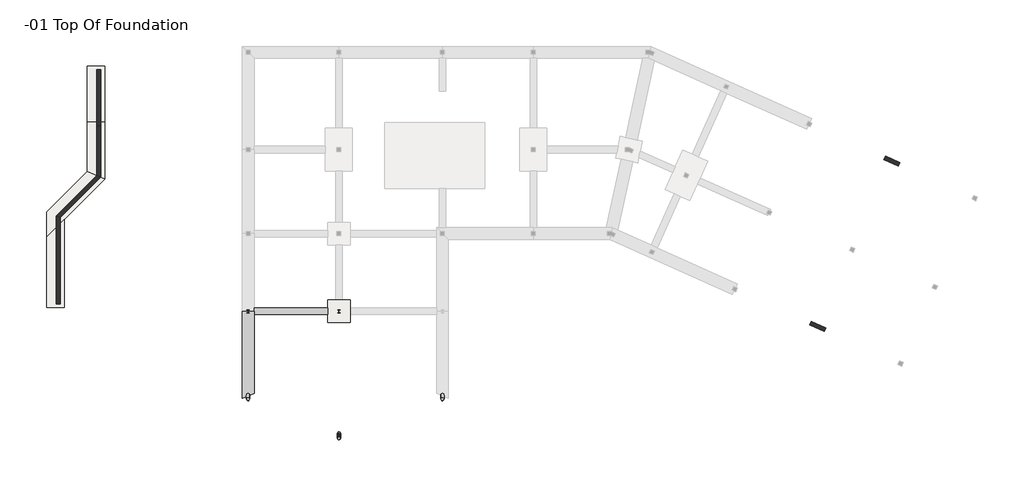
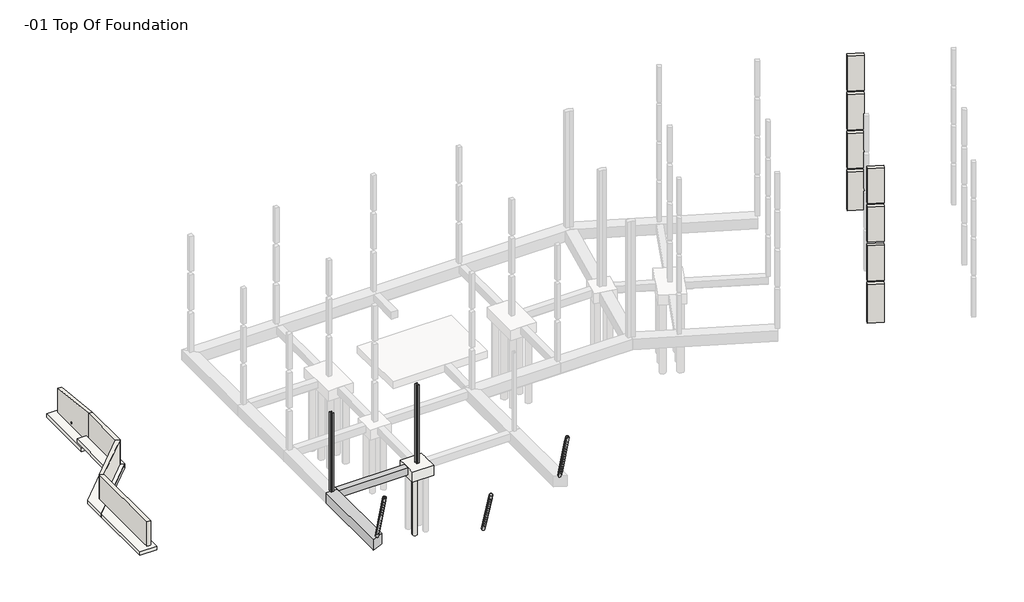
# One storey, part 1 of 4: 6 walls, 5 columns, 4 footings, 2 beams, 2 slabs.
"""IFC4 building model written with IfcOpenShell, lengths in millimetres."""

import ifcopenshell
import ifcopenshell.guid

model = None  # the IFC model being written
_history = None  # IfcOwnerHistory: only IFC2X3 demands one
_inside = {}  # id of a spatial element -> (the spatial element, [elements in it])
_under = {}  # id of a project, library or spatial element -> (it, [spatial elements below it])
_declared = {}  # id of a project -> (the project, [libraries it declares])
_typed = {}  # id of a type object -> (the type object, [elements of that type])
_made_of = {}  # id of a material, layer set ... -> (it, [elements and type objects made of it])


def new_model(schema):
    """Start an empty IFC model of exactly this schema.

    Asked for "IFC4X3", IfcOpenShell would pick the latest addendum, in which some entities
    have other attributes; the version numbers below select the first issue.
    IFC2X3 requires an IfcOwnerHistory on every rooted entity: one is made here for all.
    """
    global model, _history
    if schema == "IFC4X3":
        model = ifcopenshell.file(schema_version=(4, 3, 0, 0))
    else:
        model = ifcopenshell.file(schema=schema)
    _inside.clear()
    _under.clear()
    _declared.clear()
    _typed.clear()
    _made_of.clear()
    _history = None
    if model.schema == "IFC2X3":
        org = make("IfcOrganization", Name="unknown")
        user = make(
            "IfcPersonAndOrganization",
            ThePerson=make("IfcPerson", FamilyName="unknown"),
            TheOrganization=org,
        )
        app = make(
            "IfcApplication",
            ApplicationDeveloper=org,
            Version="unknown",
            ApplicationFullName="unknown",
            ApplicationIdentifier="unknown",
        )
        _history = make(
            "IfcOwnerHistory",
            OwningUser=user,
            OwningApplication=app,
            ChangeAction="ADDED",
            CreationDate=0,
        )
    return model


def make(cls, **values):
    """One entity of the class cls with the attributes given. An attribute that is None is left unset."""
    return model.create_entity(
        cls, **{name: value for name, value in values.items() if value is not None}
    )


def rooted(cls, **values):
    """An entity with a GlobalId (a new one), such as an element, a storey or a relation."""
    return make(cls, GlobalId=ifcopenshell.guid.new(), OwnerHistory=_history, **values)


def si_unit(unit_type, name, prefix=None):
    """IfcSIUnit, for example si_unit("LENGTHUNIT", "METRE", prefix="MILLI")."""
    return make("IfcSIUnit", UnitType=unit_type, Prefix=prefix, Name=name)


def assignment(units):
    """IfcUnitAssignment: the units of a project."""
    return None if units is None else make("IfcUnitAssignment", Units=units)


def point(xyz):
    """IfcCartesianPoint."""
    return None if xyz is None else make("IfcCartesianPoint", Coordinates=xyz)


def direction(xyz):
    """IfcDirection."""
    return None if xyz is None else make("IfcDirection", DirectionRatios=xyz)


def frame(location, z_axis=None, x_axis=None):
    """IfcAxis2Placement3D, a coordinate frame: its origin and axes. An axis left out is left unset."""
    return make(
        "IfcAxis2Placement3D",
        Location=point(location),
        Axis=direction(z_axis),
        RefDirection=direction(x_axis),
    )


def frame_2d(location, x_axis=None):
    """IfcAxis2Placement2D, a coordinate frame in the plane: its origin and x axis."""
    return make(
        "IfcAxis2Placement2D", Location=point(location), RefDirection=direction(x_axis)
    )


def origin():
    """The frame at (0, 0, 0) with its axes left unset."""
    return frame((0.0, 0.0, 0.0))


def place(relative_to, where):
    """IfcLocalPlacement: puts the frame where relative to a parent placement (None: the world)."""
    return make(
        "IfcLocalPlacement", PlacementRelTo=relative_to, RelativePlacement=where
    )


def context(
    kind, dimensions, precision=None, world=None, true_north=None, identifier=None
):
    """IfcGeometricRepresentationContext, for example the 3D "Model" context."""
    return make(
        "IfcGeometricRepresentationContext",
        ContextIdentifier=identifier,
        ContextType=kind,
        CoordinateSpaceDimension=dimensions,
        Precision=precision,
        WorldCoordinateSystem=world,
        TrueNorth=true_north,
    )


def project(units=None, contexts=None):
    """IfcProject with its units and contexts."""
    return rooted(
        "IfcProject",
        Name="project",
        RepresentationContexts=contexts,
        UnitsInContext=assignment(units),
    )


def spatial(cls, under=None, at=None, **own):
    """A site, building, storey or space (cls), placed at a placement, below another one or the project."""
    s = rooted(cls, ObjectPlacement=at, **own)
    if under is not None:
        _under.setdefault(under.id(), (under, []))[1].append(s)
    return s


def polyline(points):
    """IfcPolyline through the points."""
    return make("IfcPolyline", Points=[point(p) for p in points])


def circle_curve(where, radius):
    """IfcCircle in the frame where."""
    return make("IfcCircle", Position=where, Radius=radius)


def ellipse_curve(where, semi_axis1, semi_axis2):
    """IfcEllipse in the frame where."""
    return make(
        "IfcEllipse", Position=where, SemiAxis1=semi_axis1, SemiAxis2=semi_axis2
    )


def trimmed(basis, trim1, trim2, sense, master):
    """IfcTrimmedCurve: the piece of a basis curve between two trims."""
    return make(
        "IfcTrimmedCurve",
        BasisCurve=basis,
        Trim1=trim1,
        Trim2=trim2,
        SenseAgreement=sense,
        MasterRepresentation=master,
    )


def segment(curve, same_sense, transition):
    """IfcCompositeCurveSegment."""
    return make(
        "IfcCompositeCurveSegment",
        Transition=transition,
        SameSense=same_sense,
        ParentCurve=curve,
    )


def composite_curve(segments, self_intersect=None):
    """IfcCompositeCurve: segments joined end to end."""
    return make("IfcCompositeCurve", Segments=segments, SelfIntersect=self_intersect)


def outline(outer, holes=None, kind="AREA"):
    """IfcArbitraryClosedProfileDef: a profile drawn as a closed curve; with holes, ...WithVoids."""
    if holes is None:
        return make("IfcArbitraryClosedProfileDef", ProfileType=kind, OuterCurve=outer)
    return make(
        "IfcArbitraryProfileDefWithVoids",
        ProfileType=kind,
        OuterCurve=outer,
        InnerCurves=holes,
    )


def extrude(swept, where, along, depth):
    """IfcExtrudedAreaSolid: the profile swept, set in the frame where, extruded along a direction by depth."""
    return make(
        "IfcExtrudedAreaSolid",
        SweptArea=swept,
        Position=where,
        ExtrudedDirection=direction(along),
        Depth=depth,
    )


def faces_of(points, faces, orient=None, outer=None):
    """IfcFace entities. A face is a list of loops; a loop is a list of indices into points, from 0.

    orient and outer hold one flag for each loop. By default every Orientation is true, the
    first loop of a face is its IfcFaceOuterBound and the others are IfcFaceBound.
    """
    made = []
    for i, loops in enumerate(faces):
        bounds = []
        for j, loop in enumerate(loops):
            is_outer = j == 0 if outer is None else outer[i][j]
            bounds.append(
                make(
                    "IfcFaceOuterBound" if is_outer else "IfcFaceBound",
                    Bound=make("IfcPolyLoop", Polygon=[points[k] for k in loop]),
                    Orientation=True if orient is None else orient[i][j],
                )
            )
        made.append(make("IfcFace", Bounds=bounds))
    return made


def faceted_brep(points, faces, orient=None, outer=None, voids=None):
    """IfcFacetedBrep: a solid bounded by flat faces; with voids (closed shells), ...WithVoids."""
    shared = [point(p) for p in points]
    hull = make("IfcClosedShell", CfsFaces=faces_of(shared, faces, orient, outer))
    if voids is None:
        return make("IfcFacetedBrep", Outer=hull)
    return make(
        "IfcFacetedBrepWithVoids",
        Outer=hull,
        Voids=[
            make(cls, CfsFaces=faces_of(shared, fs, o, b)) for cls, fs, o, b in voids
        ],
    )


def shape(context_of_items, identifier, shape_type, items):
    """IfcShapeRepresentation: the items that make up one representation, for example the "Body"."""
    return make(
        "IfcShapeRepresentation",
        ContextOfItems=context_of_items,
        RepresentationIdentifier=identifier,
        RepresentationType=shape_type,
        Items=items,
    )


def source(mapping_origin, context_of_items, identifier, shape_type, items):
    """IfcRepresentationMap: a shape defined once, which mapped items show again and again."""
    return make(
        "IfcRepresentationMap",
        MappingOrigin=mapping_origin,
        MappedRepresentation=shape(context_of_items, identifier, shape_type, items),
    )


def transform(
    local_origin,
    x_axis=None,
    y_axis=None,
    z_axis=None,
    scale=None,
    scale2=None,
    scale3=None,
    uniform=True,
):
    """IfcCartesianTransformationOperator3D, or its non-uniform kind. x_axis, y_axis, z_axis: its Axis1, 2, 3."""
    if uniform:
        return make(
            "IfcCartesianTransformationOperator3D",
            Axis1=direction(x_axis),
            Axis2=direction(y_axis),
            LocalOrigin=point(local_origin),
            Scale=scale,
            Axis3=direction(z_axis),
        )
    return make(
        "IfcCartesianTransformationOperator3DnonUniform",
        Axis1=direction(x_axis),
        Axis2=direction(y_axis),
        LocalOrigin=point(local_origin),
        Scale=scale,
        Axis3=direction(z_axis),
        Scale2=scale2,
        Scale3=scale3,
    )


def mapped(mapping_source, mapping_target):
    """IfcMappedItem: shows the shape of a source again, moved by a transform."""
    return make(
        "IfcMappedItem", MappingSource=mapping_source, MappingTarget=mapping_target
    )


def made_of(thing, what):
    """Note that an element or type object is made of a material, layer set ...; save() writes the relation."""
    if what is not None:
        _made_of.setdefault(what.id(), (what, []))[1].append(thing)
    return thing


def element(
    cls,
    number,
    at=None,
    inside=None,
    cuts=None,
    type_object=None,
    material=None,
    context=None,
    identifier="Body",
    shape_type=None,
    held_by="IfcProductDefinitionShape",
    body=None,
    shapes=None,
    **own,
):
    """One element of the class cls, such as IfcWall. Its Tag is "e" and its number.

    at: its placement. inside: the storey or other place that contains it. cuts: it is an
    opening in that element (IfcRelVoidsElement). A single representation is given by context,
    identifier, shape_type and body (its items); several are given by shapes. held_by: the class
    of the entity that holds the representations. save() writes the other relations.
    """
    e = rooted(cls, Tag="e%d" % number, ObjectPlacement=at, **own)
    if body is not None:
        shapes = [shape(context, identifier, shape_type, body)]
    if shapes is not None:
        e.Representation = make(held_by, Representations=shapes)
    if inside is not None:
        _inside.setdefault(inside.id(), (inside, []))[1].append(e)
    if cuts is not None:
        rooted(
            "IfcRelVoidsElement", RelatingBuildingElement=cuts, RelatedOpeningElement=e
        )
    if type_object is not None:
        _typed.setdefault(type_object.id(), (type_object, []))[1].append(e)
    return made_of(e, material)


def aggregate(whole, parts):
    """IfcRelAggregates: a whole, such as a stair, and the parts it consists of."""
    return rooted("IfcRelAggregates", RelatingObject=whole, RelatedObjects=parts)


def save(model, path):
    """Write the relations noted so far, then the file.

    IfcRelAggregates (storeys below a building ...), IfcRelContainedInSpatialStructure (elements
    in a storey), IfcRelDefinesByType, IfcRelAssociatesMaterial and IfcRelDeclares: one each for
    every whole, place, type object, material and project.
    """
    for whole, parts in _under.values():
        aggregate(whole, parts)
    for where, things in _inside.values():
        rooted(
            "IfcRelContainedInSpatialStructure",
            RelatedElements=things,
            RelatingStructure=where,
        )
    for kind, things in _typed.values():
        rooted("IfcRelDefinesByType", RelatedObjects=things, RelatingType=kind)
    for what, things in _made_of.values():
        rooted("IfcRelAssociatesMaterial", RelatedObjects=things, RelatingMaterial=what)
    for by, libraries in _declared.values():
        rooted("IfcRelDeclares", RelatingContext=by, RelatedDefinitions=libraries)
    model.write(path)


def plane_surface(at):
    """IfcPlane: the flat surface through the origin of the frame at, square to its z axis."""
    return make("IfcPlane", Position=at)


def cylinder_surface(at, radius):
    """IfcCylindricalSurface: all points at the distance radius from the z axis of the frame at."""
    return make("IfcCylindricalSurface", Position=at, Radius=radius)


def revolved_surface(curve, axis_point, axis_direction):
    """IfcSurfaceOfRevolution: the curve turned about the line through axis_point along axis_direction."""
    return make(
        "IfcSurfaceOfRevolution",
        SweptCurve=make("IfcArbitraryOpenProfileDef", ProfileType="CURVE", Curve=curve),
        AxisPosition=make("IfcAxis1Placement", Location=point(axis_point), Axis=direction(axis_direction)),
    )


def advanced_brep(points, edges, surfaces, faces):
    """IfcAdvancedBrep: a solid bounded by faces that lie on surfaces and meet in shared edges.

    An edge is (start, end): straight between two places in points (the first is 0);
    or (start, end, curve); or (start, end, curve, False) where it runs against its curve.
    A face is (place in surfaces, loops), or (place, loops, False) where it looks against
    its surface's normal. A loop lists edges by number (the first is 1), with a minus sign
    where the edge is run from its end to its start. The first loop is the outer one.
    """
    corners = [point(p) for p in points]
    vertices = [make("IfcVertexPoint", VertexGeometry=c) for c in corners]
    made = []
    for start, end, *more in edges:
        made.append(
            make(
                "IfcEdgeCurve",
                EdgeStart=vertices[start],
                EdgeEnd=vertices[end],
                EdgeGeometry=more[0] if more else make("IfcPolyline", Points=[corners[start], corners[end]]),
                SameSense=more[1] if len(more) > 1 else True,
            )
        )
    hull = []
    for where, loops, *sense in faces:
        bounds = []
        for j, loop in enumerate(loops):
            ring = [make("IfcOrientedEdge", EdgeElement=made[abs(k) - 1], Orientation=k > 0) for k in loop]
            bounds.append(
                make(
                    "IfcFaceOuterBound" if j == 0 else "IfcFaceBound",
                    Bound=make("IfcEdgeLoop", EdgeList=ring),
                    Orientation=True,
                )
            )
        hull.append(make("IfcAdvancedFace", Bounds=bounds, FaceSurface=surfaces[where], SameSense=sense[0] if sense else True))
    return make("IfcAdvancedBrep", Outer=make("IfcClosedShell", CfsFaces=hull))


def w_shapes_column_w10x33_60aa4128(model_context):
    return source(origin(), model_context, "Body", "SweptSolid", [
        extrude(outline(composite_curve([segment(polyline([(101.092, 123.571), (101.092, 112.522), (16.383, 112.522)]), True, "CONTINUOUS"), segment(trimmed(circle_curve(frame_2d((16.383, 99.822)), 12.7), [point((16.383, 112.522))], [point((3.683, 99.822))], True, "CARTESIAN"), True, "CONTINUOUS"), segment(polyline([(3.683, 99.822), (3.683, -99.822)]), True, "CONTINUOUS"), segment(trimmed(circle_curve(frame_2d((16.383, -99.822)), 12.7), [point((3.683, -99.822))], [point((16.383, -112.522))], True, "CARTESIAN"), True, "CONTINUOUS"), segment(polyline([(16.383, -112.522), (101.092, -112.522), (101.092, -123.571), (-101.092, -123.571), (-101.092, -112.522), (-16.383, -112.522)]), True, "CONTINUOUS"), segment(trimmed(circle_curve(frame_2d((-16.383, -99.822)), 12.7), [point((-16.383, -112.522))], [point((-3.683, -99.822))], True, "CARTESIAN"), True, "CONTINUOUS"), segment(polyline([(-3.683, -99.822), (-3.683, 99.822)]), True, "CONTINUOUS"), segment(trimmed(circle_curve(frame_2d((-16.383, 99.822)), 12.7), [point((-3.683, 99.822))], [point((-16.383, 112.522))], True, "CARTESIAN"), True, "CONTINUOUS"), segment(polyline([(-16.383, 112.522), (-101.092, 112.522), (-101.092, 123.571), (101.092, 123.571)]), True, "CONTINUOUS")], self_intersect=False)), frame((0.0, 0.0, -304.8), z_axis=(0.0, 0.0, 1.0), x_axis=(1.0, 0.0, 0.0)), (0.0, 0.0, 1.0), 6807.2),
    ])


model = new_model("IFC4")

# Units and contexts
model_context = context("Model", 3, world=origin())
ifc_project = project(units=[si_unit("LENGTHUNIT", "METRE", prefix="MILLI")], contexts=[model_context])

# Site, building, storey
site = spatial("IfcSite", under=ifc_project)
building = spatial("IfcBuilding", under=site)
storey = spatial("IfcBuildingStorey", under=building, Name="-01 Top Of Foundation", Elevation=-304.8)

# Beams
placement = place(None, origin())
element("IfcBeam", 1, ObjectType="Ring Beam : 12 x 24", at=placement, inside=storey, context=model_context, shape_type="Brep", body=[
    faceted_brep([(457.2, -19748.5, -304.8), (457.2, -20002.5, -304.8), (457.2, -20256.5, -304.8), (6146.8, -20256.5, -304.8), (6146.8, -19748.5, -304.8), (457.2, -19748.5, -889.0), (6146.8, -19748.5, -889.0), (457.2, -19773.9, -914.4), (6146.8, -19773.9, -914.4), (457.2, -20231.1, -914.4), (6146.8, -20231.1, -914.4), (457.2, -20256.5, -889.0), (6146.8, -20256.5, -889.0)], [[[0, 1, 2, 3, 4]], [[5, 0, 4, 6]], [[7, 5, 6, 8]], [[9, 7, 8, 10]], [[11, 9, 10, 12]], [[2, 11, 12, 3]], [[9, 11, 2, 1, 0, 5, 7]], [[4, 3, 12, 10, 8, 6]]]),
])
element("IfcBeam", 2, ObjectType="Ring Beam : 16 x 32", at=placement, inside=storey, context=model_context, shape_type="Brep", body=[
    faceted_brep([(-457.2, -26723.3402351, -304.8), (457.2, -26332.3874204, -304.8), (457.2, -20256.5, -304.8), (457.2, -20002.5, -304.8), (-457.2, -20002.5, -304.8), (-457.2, -26723.3402351, -1193.8), (-457.2, -20002.5, -1193.8), (-431.8, -26712.4804347, -1219.2), (-431.8, -20002.5, -1219.2), (431.8, -26343.2472208, -1219.2), (431.8, -20002.5, -1219.2), (457.2, -26332.3874204, -1193.8), (457.2, -20002.5, -1193.8)], [[[0, 1, 2, 3, 4]], [[5, 0, 4, 6]], [[7, 5, 6, 8]], [[9, 7, 8, 10]], [[11, 9, 10, 12]], [[1, 11, 12, 3, 2]], [[1, 0, 5, 7, 9, 11]], [[3, 12, 10, 8, 6, 4]]]),
])

# Columns
element("IfcColumn", 3, ObjectType="HSS Round-Column : HSS10X.500", at=placement, inside=storey, context=model_context, shape_type="AdvancedBrep", body=[
    advanced_brep(
    [(6883.4, -29416.3085227, -359.2102448), (7137.4, -29416.3085227, -359.2102448), (6896.1, -29416.3085227, -359.2102448), (7124.7, -29416.3085227, -359.2102448), (6883.4, -30549.160265, 3300.5302448), (7137.4, -30549.160265, 3300.5302448), (6896.1, -30549.160265, 3300.5302448), (7124.7, -30549.160265, 3300.5302448)],
    [
        (0, 1, circle_curve(frame((7010.4, -29416.3085227, -359.2102448), z_axis=(0.0, 0.29570157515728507, -0.9552803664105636), x_axis=(1.0, 0.0, 0.0)), 127.0)),
        (1, 0, circle_curve(frame((7010.4, -29416.3085227, -359.2102448), z_axis=(0.0, 0.29570157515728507, -0.9552803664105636), x_axis=(1.0, 0.0, 0.0)), 127.0)),
        (2, 3, circle_curve(frame((7010.4, -29416.3085227, -359.2102448), z_axis=(0.0, -0.29570157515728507, 0.9552803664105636), x_axis=(1.0, 0.0, 0.0)), 114.3)),
        (3, 2, circle_curve(frame((7010.4, -29416.3085227, -359.2102448), z_axis=(0.0, -0.29570157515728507, 0.9552803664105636), x_axis=(1.0, 0.0, 0.0)), 114.3)),
        (4, 5, circle_curve(frame((7010.4, -30549.160265, 3300.5302448), z_axis=(0.0, 0.29570157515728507, -0.9552803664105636), x_axis=(1.0, 0.0, 0.0)), 127.0)),
        (5, 1),
        (0, 4),
        (5, 4, circle_curve(frame((7010.4, -30549.160265, 3300.5302448), z_axis=(0.0, 0.29570157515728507, -0.9552803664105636), x_axis=(1.0, 0.0, 0.0)), 127.0)),
        (6, 7, circle_curve(frame((7010.4, -30549.160265, 3300.5302448), z_axis=(0.0, -0.29570157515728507, 0.9552803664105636), x_axis=(1.0, 0.0, 0.0)), 114.3)),
        (7, 3),
        (2, 6),
        (7, 6, circle_curve(frame((7010.4, -30549.160265, 3300.5302448), z_axis=(0.0, -0.29570157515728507, 0.9552803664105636), x_axis=(1.0, 0.0, 0.0)), 114.3)),
    ],
    [
        plane_surface(frame((7137.4, -29416.3085227, -359.2102448), z_axis=(0.0, 0.295701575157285, -0.9552803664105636), x_axis=(0.0, -0.9552803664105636, -0.295701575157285))),
        cylinder_surface(frame((7010.4, -29416.3085227, -359.2102448), z_axis=(0.0, -0.29570157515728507, 0.9552803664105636), x_axis=(1.0, 0.0, 0.0)), 127.0),
        revolved_surface(polyline([(7124.7, -29416.308522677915, -359.21024479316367), (7124.7, -30549.160264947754, 3300.530244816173)]), (7010.4, -29527.5, 0.0), (0.0, 0.29570157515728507, -0.9552803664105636)),
        plane_surface(frame((7137.4, -30549.160265, 3300.5302448), z_axis=(0.0, -0.295701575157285, 0.9552803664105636), x_axis=(0.0, 0.9552803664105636, 0.295701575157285))),
    ],
    [
        (0, [[1, 2], [3, 4]]),
        (1, [[5, 6, -1, 7]]),
        (1, [[8, -7, -2, -6]]),
        (2, [[9, 10, -3, 11]]),
        (2, [[12, -11, -4, -10]]),
        (3, [[-8, -5], [-12, -9]]),
    ],
),
    advanced_brep(
    [(6883.4, -30549.160265, 3300.5302448), (7137.4, -30549.160265, 3300.5302448), (6896.1, -30549.160265, 3300.5302448), (7124.7, -30549.160265, 3300.5302448), (7137.4, -29527.5, 0.0), (6883.4, -29527.5, 0.0), (7124.7, -29527.5, 0.0), (6896.1, -29527.5, 0.0)],
    [
        (0, 1, circle_curve(frame((7010.4, -30549.160265, 3300.5302448), z_axis=(0.0, -0.29570157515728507, 0.9552803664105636), x_axis=(1.0, 0.0, 0.0)), 127.0)),
        (1, 0, circle_curve(frame((7010.4, -30549.160265, 3300.5302448), z_axis=(0.0, -0.29570157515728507, 0.9552803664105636), x_axis=(1.0, 0.0, 0.0)), 127.0)),
        (2, 3, circle_curve(frame((7010.4, -30549.160265, 3300.5302448), z_axis=(0.0, 0.29570157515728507, -0.9552803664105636), x_axis=(1.0, 0.0, 0.0)), 114.3)),
        (3, 2, circle_curve(frame((7010.4, -30549.160265, 3300.5302448), z_axis=(0.0, 0.29570157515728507, -0.9552803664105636), x_axis=(1.0, 0.0, 0.0)), 114.3)),
        (1, 4),
        (4, 5, ellipse_curve(frame((7010.4, -29527.5, 0.0), z_axis=(0.0, 0.0, 1.0), x_axis=(0.0, -1.0, 0.0)), 132.9452635, 127.0)),
        (5, 0),
        (5, 4, ellipse_curve(frame((7010.4, -29527.5, 0.0), z_axis=(0.0, 0.0, 1.0), x_axis=(0.0, -1.0, 0.0)), 132.9452635, 127.0)),
        (3, 6),
        (6, 7, ellipse_curve(frame((7010.4, -29527.5, 0.0), z_axis=(0.0, 0.0, -1.0), x_axis=(0.0, 1.0, 0.0)), 119.6507371, 114.3)),
        (7, 2),
        (7, 6, ellipse_curve(frame((7010.4, -29527.5, 0.0), z_axis=(0.0, 0.0, -1.0), x_axis=(0.0, 1.0, 0.0)), 119.6507371, 114.3)),
    ],
    [
        plane_surface(frame((7137.4, -30549.160265, 3300.5302448), z_axis=(0.0, -0.295701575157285, 0.9552803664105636), x_axis=(0.0, 0.9552803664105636, 0.295701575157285))),
        cylinder_surface(frame((7010.4, -29416.3085227, -359.2102448), z_axis=(0.0, -0.29570157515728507, 0.9552803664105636), x_axis=(1.0, 0.0, 0.0)), 127.0),
        revolved_surface(polyline([(7124.7, -29517.037808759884, -33.798690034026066), (7124.7, -30549.160264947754, 3300.530244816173)]), (7010.4, -29527.5, 0.0), (0.0, 0.29570157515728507, -0.9552803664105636)),
        plane_surface(frame((7010.4, -29527.5, 0.0), z_axis=(0.0, 0.0, -1.0), x_axis=(1.0, 0.0, 0.0))),
    ],
    [
        (0, [[1, 2], [3, 4]]),
        (1, [[-2, 5, 6, 7]]),
        (1, [[-1, -7, 8, -5]]),
        (2, [[-4, 9, 10, 11]]),
        (2, [[-3, -11, 12, -9]]),
        (3, [[-6, -8], [-10, -12]]),
    ],
),
    advanced_brep(
    [(7137.4, -30437.9687876, 2941.32), (7137.4, -29527.5, 0.0), (6883.4, -29527.5, 0.0), (6883.4, -30437.9687876, 2941.32), (6896.1, -29527.5, 0.0), (7124.7, -29527.5, 0.0), (7124.7, -30437.9687876, 2941.32), (6896.1, -30437.9687876, 2941.32)],
    [
        (0, 1),
        (1, 2, ellipse_curve(frame((7010.4, -29527.5, 0.0), z_axis=(0.0, 0.0, 1.0), x_axis=(0.0, -1.0, 0.0)), 132.9452635, 127.0)),
        (2, 3),
        (3, 0, ellipse_curve(frame((7010.4, -30437.9687876, 2941.32), z_axis=(0.0, 0.0, -1.0), x_axis=(0.0, -1.0, 0.0)), 132.9452635, 127.0)),
        (2, 1, ellipse_curve(frame((7010.4, -29527.5, 0.0), z_axis=(0.0, 0.0, 1.0), x_axis=(0.0, -1.0, 0.0)), 132.9452635, 127.0)),
        (0, 3, ellipse_curve(frame((7010.4, -30437.9687876, 2941.32), z_axis=(0.0, 0.0, -1.0), x_axis=(0.0, -1.0, 0.0)), 132.9452635, 127.0)),
        (4, 5, ellipse_curve(frame((7010.4, -29527.5, 0.0), z_axis=(0.0, 0.0, 1.0), x_axis=(0.0, 1.0, 0.0)), 119.6507371, 114.3)),
        (5, 4, ellipse_curve(frame((7010.4, -29527.5, 0.0), z_axis=(0.0, 0.0, 1.0), x_axis=(0.0, 1.0, 0.0)), 119.6507371, 114.3)),
        (6, 5),
        (4, 7),
        (7, 6, ellipse_curve(frame((7010.4, -30437.9687876, 2941.32), z_axis=(0.0, 0.0, 1.0), x_axis=(0.0, 1.0, 0.0)), 119.6507371, 114.3)),
        (6, 7, ellipse_curve(frame((7010.4, -30437.9687876, 2941.32), z_axis=(0.0, 0.0, 1.0), x_axis=(0.0, 1.0, 0.0)), 119.6507371, 114.3)),
    ],
    [
        cylinder_surface(frame((7010.4, -29416.3085227, -359.2102448), z_axis=(0.0, -0.29570157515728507, 0.9552803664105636), x_axis=(1.0, 0.0, 0.0)), 127.0),
        plane_surface(frame((7010.4, -29527.5, 0.0), z_axis=(0.0, 0.0, -1.0), x_axis=(1.0, 0.0, 0.0))),
        revolved_surface(polyline([(7124.7, -29517.037808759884, -33.798690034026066), (7124.7, -30448.43097885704, 2975.1186900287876)]), (7010.4, -29527.5, 0.0), (0.0, 0.29570157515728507, -0.9552803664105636)),
        plane_surface(frame((7010.4, -30441.9, 2941.32), z_axis=(0.0, 0.0, 1.0), x_axis=(-1.0, 0.0, 0.0))),
    ],
    [
        (0, [[1, 2, 3, 4]]),
        (0, [[-3, 5, -1, 6]]),
        (1, [[-2, -5], [7, 8]]),
        (2, [[9, -7, 10, 11]]),
        (2, [[-10, -8, -9, 12]]),
        (3, [[-4, -6], [-11, -12]]),
    ],
),
])
element("IfcColumn", 4, ObjectType="HSS Round-Column : HSS10X.500", at=placement, inside=storey, context=model_context, shape_type="AdvancedBrep", body=[
    advanced_brep(
    [(-127.0, -26432.3335696, -359.2102448), (127.0, -26432.3335696, -359.2102448), (-114.3, -26432.3335696, -359.2102448), (114.3, -26432.3335696, -359.2102448), (-127.0, -27542.6664304, 3712.0102448), (127.0, -27542.6664304, 3712.0102448), (-114.3, -27542.6664304, 3712.0102448), (114.3, -27542.6664304, 3712.0102448)],
    [
        (0, 1, circle_curve(frame((0.0, -26432.3335696, -359.2102448), z_axis=(0.0, 0.26311740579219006, -0.9647638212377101), x_axis=(1.0000000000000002, 0.0, 0.0)), 127.0)),
        (1, 0, circle_curve(frame((0.0, -26432.3335696, -359.2102448), z_axis=(0.0, 0.26311740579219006, -0.9647638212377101), x_axis=(1.0000000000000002, 0.0, 0.0)), 127.0)),
        (2, 3, circle_curve(frame((0.0, -26432.3335696, -359.2102448), z_axis=(0.0, -0.26311740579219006, 0.9647638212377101), x_axis=(1.0000000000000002, 0.0, 0.0)), 114.3)),
        (3, 2, circle_curve(frame((0.0, -26432.3335696, -359.2102448), z_axis=(0.0, -0.26311740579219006, 0.9647638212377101), x_axis=(1.0000000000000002, 0.0, 0.0)), 114.3)),
        (4, 5, circle_curve(frame((0.0, -27542.6664304, 3712.0102448), z_axis=(0.0, 0.26311740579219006, -0.9647638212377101), x_axis=(1.0000000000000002, 0.0, 0.0)), 127.0)),
        (5, 1),
        (0, 4),
        (5, 4, circle_curve(frame((0.0, -27542.6664304, 3712.0102448), z_axis=(0.0, 0.26311740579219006, -0.9647638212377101), x_axis=(1.0000000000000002, 0.0, 0.0)), 127.0)),
        (6, 7, circle_curve(frame((0.0, -27542.6664304, 3712.0102448), z_axis=(0.0, -0.26311740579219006, 0.9647638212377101), x_axis=(1.0000000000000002, 0.0, 0.0)), 114.3)),
        (7, 3),
        (2, 6),
        (7, 6, circle_curve(frame((0.0, -27542.6664304, 3712.0102448), z_axis=(0.0, -0.26311740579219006, 0.9647638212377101), x_axis=(1.0000000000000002, 0.0, 0.0)), 114.3)),
    ],
    [
        plane_surface(frame((127.0, -26432.3335696, -359.2102448), z_axis=(0.0, 0.26311740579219, -0.96476382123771), x_axis=(0.0, -0.96476382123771, -0.26311740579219))),
        cylinder_surface(frame((0.0, -26432.3335696, -359.2102448), z_axis=(0.0, -0.26311740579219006, 0.9647638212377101), x_axis=(1.0000000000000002, 0.0, 0.0)), 127.0),
        revolved_surface(polyline([(114.30000000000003, -26432.33356959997, -359.21024479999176), (114.30000000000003, -27542.666430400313, 3712.0102447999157)]), (0.0, -26530.3, 0.0), (0.0, 0.26311740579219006, -0.9647638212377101)),
        plane_surface(frame((127.0, -27542.6664304, 3712.0102448), z_axis=(0.0, -0.26311740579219, 0.96476382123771), x_axis=(0.0, 0.96476382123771, 0.26311740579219))),
    ],
    [
        (0, [[1, 2], [3, 4]]),
        (1, [[5, 6, -1, 7]]),
        (1, [[8, -7, -2, -6]]),
        (2, [[9, 10, -3, 11]]),
        (2, [[12, -11, -4, -10]]),
        (3, [[-8, -5], [-12, -9]]),
    ],
),
    advanced_brep(
    [(-127.0, -27542.6664304, 3712.0102448), (127.0, -27542.6664304, 3712.0102448), (-114.3, -27542.6664304, 3712.0102448), (114.3, -27542.6664304, 3712.0102448), (127.0, -26530.3, 0.0), (-127.0, -26530.3, 0.0), (114.3, -26530.3, 0.0), (-114.3, -26530.3, 0.0)],
    [
        (0, 1, circle_curve(frame((0.0, -27542.6664304, 3712.0102448), z_axis=(0.0, -0.26311740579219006, 0.9647638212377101), x_axis=(1.0000000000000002, 0.0, 0.0)), 127.0)),
        (1, 0, circle_curve(frame((0.0, -27542.6664304, 3712.0102448), z_axis=(0.0, -0.26311740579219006, 0.9647638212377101), x_axis=(1.0000000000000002, 0.0, 0.0)), 127.0)),
        (2, 3, circle_curve(frame((0.0, -27542.6664304, 3712.0102448), z_axis=(0.0, 0.26311740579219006, -0.9647638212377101), x_axis=(1.0000000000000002, 0.0, 0.0)), 114.3)),
        (3, 2, circle_curve(frame((0.0, -27542.6664304, 3712.0102448), z_axis=(0.0, 0.26311740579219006, -0.9647638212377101), x_axis=(1.0000000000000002, 0.0, 0.0)), 114.3)),
        (1, 4),
        (4, 5, ellipse_curve(frame((0.0, -26530.3, 0.0), z_axis=(0.0, 0.0, 1.0), x_axis=(0.0, -1.0, 0.0)), 131.6384354, 127.0)),
        (5, 0),
        (5, 4, ellipse_curve(frame((0.0, -26530.3, 0.0), z_axis=(0.0, 0.0, 1.0), x_axis=(0.0, -1.0, 0.0)), 131.6384354, 127.0)),
        (3, 6),
        (6, 7, ellipse_curve(frame((0.0, -26530.3, 0.0), z_axis=(0.0, 0.0, -1.0), x_axis=(0.0, 1.0, 0.0)), 118.4745919, 114.3)),
        (7, 2),
        (7, 6, ellipse_curve(frame((0.0, -26530.3, 0.0), z_axis=(0.0, 0.0, -1.0), x_axis=(0.0, 1.0, 0.0)), 118.4745919, 114.3)),
    ],
    [
        plane_surface(frame((127.0, -27542.6664304, 3712.0102448), z_axis=(0.0, -0.26311740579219, 0.96476382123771), x_axis=(0.0, 0.96476382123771, 0.26311740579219))),
        cylinder_surface(frame((0.0, -26432.3335696, -359.2102448), z_axis=(0.0, -0.26311740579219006, 0.9647638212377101), x_axis=(1.0000000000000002, 0.0, 0.0)), 127.0),
        revolved_surface(polyline([(114.30000000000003, -26522.097912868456, -30.074319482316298), (114.30000000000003, -27542.666430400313, 3712.0102447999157)]), (0.0, -26530.3, 0.0), (0.0, 0.26311740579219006, -0.9647638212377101)),
        plane_surface(frame((0.0, -26530.3, 0.0), z_axis=(0.0, 0.0, -1.0), x_axis=(1.0, 0.0, 0.0))),
    ],
    [
        (0, [[1, 2], [3, 4]]),
        (1, [[-2, 5, 6, 7]]),
        (1, [[-1, -7, 8, -5]]),
        (2, [[-4, 9, 10, 11]]),
        (2, [[-3, -11, 12, -9]]),
        (3, [[-6, -8], [-10, -12]]),
    ],
),
    advanced_brep(
    [(127.0, -27444.7, 3352.8), (127.0, -26530.3, 0.0), (-127.0, -26530.3, 0.0), (-127.0, -27444.7, 3352.8), (-114.3, -26530.3, 0.0), (114.3, -26530.3, 0.0), (114.3, -27444.7, 3352.8), (-114.3, -27444.7, 3352.8)],
    [
        (0, 1),
        (1, 2, ellipse_curve(frame((0.0, -26530.3, 0.0), z_axis=(0.0, 0.0, 1.0), x_axis=(0.0, -1.0, 0.0)), 131.6384354, 127.0)),
        (2, 3),
        (3, 0, ellipse_curve(frame((0.0, -27444.7, 3352.8), z_axis=(0.0, 0.0, -1.0), x_axis=(0.0, -1.0, 0.0)), 131.6384354, 127.0)),
        (2, 1, ellipse_curve(frame((0.0, -26530.3, 0.0), z_axis=(0.0, 0.0, 1.0), x_axis=(0.0, -1.0, 0.0)), 131.6384354, 127.0)),
        (0, 3, ellipse_curve(frame((0.0, -27444.7, 3352.8), z_axis=(0.0, 0.0, -1.0), x_axis=(0.0, -1.0, 0.0)), 131.6384354, 127.0)),
        (4, 5, ellipse_curve(frame((0.0, -26530.3, 0.0), z_axis=(0.0, 0.0, 1.0), x_axis=(0.0, 1.0, 0.0)), 118.4745919, 114.3)),
        (5, 4, ellipse_curve(frame((0.0, -26530.3, 0.0), z_axis=(0.0, 0.0, 1.0), x_axis=(0.0, 1.0, 0.0)), 118.4745919, 114.3)),
        (6, 5),
        (4, 7),
        (7, 6, ellipse_curve(frame((0.0, -27444.7, 3352.8), z_axis=(0.0, 0.0, 1.0), x_axis=(0.0, 1.0, 0.0)), 118.4745919, 114.3)),
        (6, 7, ellipse_curve(frame((0.0, -27444.7, 3352.8), z_axis=(0.0, 0.0, 1.0), x_axis=(0.0, 1.0, 0.0)), 118.4745919, 114.3)),
    ],
    [
        cylinder_surface(frame((0.0, -26432.3335696, -359.2102448), z_axis=(0.0, -0.26311740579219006, 0.9647638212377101), x_axis=(1.0000000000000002, 0.0, 0.0)), 127.0),
        plane_surface(frame((0.0, -26530.3, 0.0), z_axis=(0.0, 0.0, -1.0), x_axis=(1.0, 0.0, 0.0))),
        revolved_surface(polyline([(114.30000000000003, -26522.097912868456, -30.074319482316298), (114.30000000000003, -27452.902087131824, 3382.8743194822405)]), (0.0, -26530.3, 0.0), (0.0, 0.26311740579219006, -0.9647638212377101)),
        plane_surface(frame((0.0, -27444.7, 3352.8), z_axis=(0.0, 0.0, 1.0), x_axis=(-1.0, 0.0, 0.0))),
    ],
    [
        (0, [[1, 2, 3, 4]]),
        (0, [[-3, 5, -1, 6]]),
        (1, [[-2, -5], [7, 8]]),
        (2, [[9, -7, 10, 11]]),
        (2, [[-10, -8, -9, 12]]),
        (3, [[-4, -6], [-11, -12]]),
    ],
),
])
element("IfcColumn", 5, ObjectType="HSS Round-Column : HSS10X.500", at=placement, inside=storey, context=model_context, shape_type="AdvancedBrep", body=[
    advanced_brep(
    [(14871.7, -26432.3335696, -359.2102448), (15125.7, -26432.3335696, -359.2102448), (14884.4, -26432.3335696, -359.2102448), (15113.0, -26432.3335696, -359.2102448), (14871.7, -27542.6664304, 3712.0102448), (15125.7, -27542.6664304, 3712.0102448), (14884.4, -27542.6664304, 3712.0102448), (15113.0, -27542.6664304, 3712.0102448)],
    [
        (0, 1, circle_curve(frame((14998.7, -26432.3335696, -359.2102448), z_axis=(0.0, 0.26311740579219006, -0.9647638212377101), x_axis=(1.0000000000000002, 0.0, 0.0)), 127.0)),
        (1, 0, circle_curve(frame((14998.7, -26432.3335696, -359.2102448), z_axis=(0.0, 0.26311740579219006, -0.9647638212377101), x_axis=(1.0000000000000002, 0.0, 0.0)), 127.0)),
        (2, 3, circle_curve(frame((14998.7, -26432.3335696, -359.2102448), z_axis=(0.0, -0.26311740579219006, 0.9647638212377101), x_axis=(1.0000000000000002, 0.0, 0.0)), 114.3)),
        (3, 2, circle_curve(frame((14998.7, -26432.3335696, -359.2102448), z_axis=(0.0, -0.26311740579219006, 0.9647638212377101), x_axis=(1.0000000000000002, 0.0, 0.0)), 114.3)),
        (4, 5, circle_curve(frame((14998.7, -27542.6664304, 3712.0102448), z_axis=(0.0, 0.26311740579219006, -0.9647638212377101), x_axis=(1.0000000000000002, 0.0, 0.0)), 127.0)),
        (5, 1),
        (0, 4),
        (5, 4, circle_curve(frame((14998.7, -27542.6664304, 3712.0102448), z_axis=(0.0, 0.26311740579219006, -0.9647638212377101), x_axis=(1.0000000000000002, 0.0, 0.0)), 127.0)),
        (6, 7, circle_curve(frame((14998.7, -27542.6664304, 3712.0102448), z_axis=(0.0, -0.26311740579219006, 0.9647638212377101), x_axis=(1.0000000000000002, 0.0, 0.0)), 114.3)),
        (7, 3),
        (2, 6),
        (7, 6, circle_curve(frame((14998.7, -27542.6664304, 3712.0102448), z_axis=(0.0, -0.26311740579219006, 0.9647638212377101), x_axis=(1.0000000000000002, 0.0, 0.0)), 114.3)),
    ],
    [
        plane_surface(frame((15125.7, -26432.3335696, -359.2102448), z_axis=(0.0, 0.26311740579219, -0.96476382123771), x_axis=(0.0, -0.96476382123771, -0.26311740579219))),
        cylinder_surface(frame((14998.7, -26432.3335696, -359.2102448), z_axis=(0.0, -0.26311740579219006, 0.9647638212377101), x_axis=(1.0000000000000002, 0.0, 0.0)), 127.0),
        revolved_surface(polyline([(15113.0, -26432.33356959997, -359.21024479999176), (15113.0, -27542.666430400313, 3712.0102447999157)]), (14998.7, -26530.3, 0.0), (0.0, 0.26311740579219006, -0.9647638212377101)),
        plane_surface(frame((15125.7, -27542.6664304, 3712.0102448), z_axis=(0.0, -0.26311740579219, 0.96476382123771), x_axis=(0.0, 0.96476382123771, 0.26311740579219))),
    ],
    [
        (0, [[1, 2], [3, 4]]),
        (1, [[5, 6, -1, 7]]),
        (1, [[8, -7, -2, -6]]),
        (2, [[9, 10, -3, 11]]),
        (2, [[12, -11, -4, -10]]),
        (3, [[-8, -5], [-12, -9]]),
    ],
),
    advanced_brep(
    [(14871.7, -27542.6664304, 3712.0102448), (15125.7, -27542.6664304, 3712.0102448), (14884.4, -27542.6664304, 3712.0102448), (15113.0, -27542.6664304, 3712.0102448), (15125.7, -26530.3, 0.0), (14871.7, -26530.3, 0.0), (15113.0, -26530.3, 0.0), (14884.4, -26530.3, 0.0)],
    [
        (0, 1, circle_curve(frame((14998.7, -27542.6664304, 3712.0102448), z_axis=(0.0, -0.26311740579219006, 0.9647638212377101), x_axis=(1.0000000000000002, 0.0, 0.0)), 127.0)),
        (1, 0, circle_curve(frame((14998.7, -27542.6664304, 3712.0102448), z_axis=(0.0, -0.26311740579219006, 0.9647638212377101), x_axis=(1.0000000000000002, 0.0, 0.0)), 127.0)),
        (2, 3, circle_curve(frame((14998.7, -27542.6664304, 3712.0102448), z_axis=(0.0, 0.26311740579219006, -0.9647638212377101), x_axis=(1.0000000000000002, 0.0, 0.0)), 114.3)),
        (3, 2, circle_curve(frame((14998.7, -27542.6664304, 3712.0102448), z_axis=(0.0, 0.26311740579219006, -0.9647638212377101), x_axis=(1.0000000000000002, 0.0, 0.0)), 114.3)),
        (1, 4),
        (4, 5, ellipse_curve(frame((14998.7, -26530.3, 0.0), z_axis=(0.0, 0.0, 1.0), x_axis=(0.0, -1.0, 0.0)), 131.6384354, 127.0)),
        (5, 0),
        (5, 4, ellipse_curve(frame((14998.7, -26530.3, 0.0), z_axis=(0.0, 0.0, 1.0), x_axis=(0.0, -1.0, 0.0)), 131.6384354, 127.0)),
        (3, 6),
        (6, 7, ellipse_curve(frame((14998.7, -26530.3, 0.0), z_axis=(0.0, 0.0, -1.0), x_axis=(0.0, 1.0, 0.0)), 118.4745919, 114.3)),
        (7, 2),
        (7, 6, ellipse_curve(frame((14998.7, -26530.3, 0.0), z_axis=(0.0, 0.0, -1.0), x_axis=(0.0, 1.0, 0.0)), 118.4745919, 114.3)),
    ],
    [
        plane_surface(frame((15125.7, -27542.6664304, 3712.0102448), z_axis=(0.0, -0.26311740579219, 0.96476382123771), x_axis=(0.0, 0.96476382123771, 0.26311740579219))),
        cylinder_surface(frame((14998.7, -26432.3335696, -359.2102448), z_axis=(0.0, -0.26311740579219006, 0.9647638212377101), x_axis=(1.0000000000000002, 0.0, 0.0)), 127.0),
        revolved_surface(polyline([(15113.0, -26522.097912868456, -30.074319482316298), (15113.0, -27542.666430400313, 3712.0102447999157)]), (14998.7, -26530.3, 0.0), (0.0, 0.26311740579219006, -0.9647638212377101)),
        plane_surface(frame((14998.7, -26530.3, 0.0), z_axis=(0.0, 0.0, -1.0), x_axis=(1.0, 0.0, 0.0))),
    ],
    [
        (0, [[1, 2], [3, 4]]),
        (1, [[-2, 5, 6, 7]]),
        (1, [[-1, -7, 8, -5]]),
        (2, [[-4, 9, 10, 11]]),
        (2, [[-3, -11, 12, -9]]),
        (3, [[-6, -8], [-10, -12]]),
    ],
),
    advanced_brep(
    [(15125.7, -27444.7, 3352.8), (15125.7, -26530.3, 0.0), (14871.7, -26530.3, 0.0), (14871.7, -27444.7, 3352.8), (14884.4, -26530.3, 0.0), (15113.0, -26530.3, 0.0), (15113.0, -27444.7, 3352.8), (14884.4, -27444.7, 3352.8)],
    [
        (0, 1),
        (1, 2, ellipse_curve(frame((14998.7, -26530.3, 0.0), z_axis=(0.0, 0.0, 1.0), x_axis=(0.0, -1.0, 0.0)), 131.6384354, 127.0)),
        (2, 3),
        (3, 0, ellipse_curve(frame((14998.7, -27444.7, 3352.8), z_axis=(0.0, 0.0, -1.0), x_axis=(0.0, -1.0, 0.0)), 131.6384354, 127.0)),
        (2, 1, ellipse_curve(frame((14998.7, -26530.3, 0.0), z_axis=(0.0, 0.0, 1.0), x_axis=(0.0, -1.0, 0.0)), 131.6384354, 127.0)),
        (0, 3, ellipse_curve(frame((14998.7, -27444.7, 3352.8), z_axis=(0.0, 0.0, -1.0), x_axis=(0.0, -1.0, 0.0)), 131.6384354, 127.0)),
        (4, 5, ellipse_curve(frame((14998.7, -26530.3, 0.0), z_axis=(0.0, 0.0, 1.0), x_axis=(0.0, 1.0, 0.0)), 118.4745919, 114.3)),
        (5, 4, ellipse_curve(frame((14998.7, -26530.3, 0.0), z_axis=(0.0, 0.0, 1.0), x_axis=(0.0, 1.0, 0.0)), 118.4745919, 114.3)),
        (6, 5),
        (4, 7),
        (7, 6, ellipse_curve(frame((14998.7, -27444.7, 3352.8), z_axis=(0.0, 0.0, 1.0), x_axis=(0.0, 1.0, 0.0)), 118.4745919, 114.3)),
        (6, 7, ellipse_curve(frame((14998.7, -27444.7, 3352.8), z_axis=(0.0, 0.0, 1.0), x_axis=(0.0, 1.0, 0.0)), 118.4745919, 114.3)),
    ],
    [
        cylinder_surface(frame((14998.7, -26432.3335696, -359.2102448), z_axis=(0.0, -0.26311740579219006, 0.9647638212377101), x_axis=(1.0000000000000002, 0.0, 0.0)), 127.0),
        plane_surface(frame((14998.7, -26530.3, 0.0), z_axis=(0.0, 0.0, -1.0), x_axis=(1.0, 0.0, 0.0))),
        revolved_surface(polyline([(15113.0, -26522.097912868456, -30.074319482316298), (15113.0, -27452.902087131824, 3382.8743194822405)]), (14998.7, -26530.3, 0.0), (0.0, 0.26311740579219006, -0.9647638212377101)),
        plane_surface(frame((14998.7, -27444.7, 3352.8), z_axis=(0.0, 0.0, 1.0), x_axis=(-1.0, 0.0, 0.0))),
    ],
    [
        (0, [[1, 2, 3, 4]]),
        (0, [[-3, 5, -1, 6]]),
        (1, [[-2, -5], [7, 8]]),
        (2, [[9, -7, 10, 11]]),
        (2, [[-10, -8, -9, 12]]),
        (3, [[-4, -6], [-11, -12]]),
    ],
),
])
w_shapes_column_w10x33_shape = w_shapes_column_w10x33_60aa4128(model_context)
element("IfcColumn", 6, ObjectType="W Shapes-Column : W10X33", at=placement, inside=storey, context=model_context, shape_type="MappedRepresentation", body=[
    mapped(w_shapes_column_w10x33_shape, transform((0.0, -20002.5, 0.0), x_axis=(1.0, 0.0, 0.0), y_axis=(0.0, 1.0, 0.0), z_axis=(0.0, 0.0, 1.0))),
])
element("IfcColumn", 7, ObjectType="W Shapes-Column : W10X33", at=placement, inside=storey, context=model_context, shape_type="MappedRepresentation", body=[
    mapped(w_shapes_column_w10x33_shape, transform((7010.4, -20002.5, 0.0), x_axis=(1.0, 0.0, 0.0), y_axis=(0.0, 1.0, 0.0), z_axis=(0.0, 0.0, 1.0))),
])

# Footings
element("IfcFooting", 8, ObjectType="Bearing Footing - 36\" x 12\"", at=placement, inside=storey, context=model_context, shape_type="SweptSolid", body=[
    extrude(outline(polyline([(-12427.9493295, -1047.6002614), (-11056.3493295, -1047.6002614), (-11056.3493295, -6001.5293915), (-12427.9493295, -6001.5293915), (-12427.9493295, -1047.6002614)])), frame((0.0, 0.0, -1066.8), z_axis=(0.0, 0.0, 1.0), x_axis=(1.0, 0.0, 0.0)), (0.0, 0.0, 1.0), 304.8),
])
element("IfcFooting", 9, ObjectType="Bearing Footing - 36\" x 12\"", at=placement, inside=storey, context=model_context, shape_type="Brep", body=[
    faceted_brep([(-12427.9493295, -9203.24338, -304.8), (-15553.0784596, -12328.3725101, -304.8), (-15553.0784596, -14268.1078323, -304.8), (-14181.4784596, -12896.5078323, -304.8), (-11056.3493295, -9771.3787021, -304.8), (-11056.3493295, -9771.3787021, -609.6), (-15553.0784596, -14268.1078323, -609.6), (-14181.4784596, -12896.5078323, -609.6), (-12427.9493295, -9203.24338, -609.6), (-15553.0784596, -12328.3725101, -609.6)], [[[0, 1, 2, 3, 4]], [[5, 4, 3, 2, 6, 7]], [[8, 5, 7, 6, 9]], [[0, 8, 9, 1]], [[2, 1, 9, 6]], [[0, 4, 5, 8]]]),
])
element("IfcFooting", 10, ObjectType="Bearing Footing - 36\" x 12\"", at=placement, inside=storey, context=model_context, shape_type="SweptSolid", body=[
    extrude(outline(polyline([(-14181.4784596, -19717.5293915), (-15553.0784596, -19717.5293915), (-15553.0784596, -14268.1078323), (-14181.4784596, -12896.5078323), (-14181.4784596, -19717.5293915)])), frame((0.0, 0.0, -609.6), z_axis=(0.0, 0.0, 1.0), x_axis=(1.0, 0.0, 0.0)), (0.0, 0.0, 1.0), 304.8),
])
element("IfcFooting", 11, ObjectType="Bearing Footing - 36\" x 12\"", at=placement, inside=storey, context=model_context, shape_type="SweptSolid", body=[
    extrude(outline(polyline([(-11056.3493295, -5391.9293915), (-11056.3493295, -9771.3787021), (-12427.9493295, -9203.24338), (-12427.9493295, -5391.9293915), (-11665.9493295, -5391.9293915), (-11665.9493295, -5696.7293915), (-11361.1493295, -5696.7293915), (-11361.1493295, -5391.9293915), (-11056.3493295, -5391.9293915)])), frame((0.0, 0.0, -609.6), z_axis=(0.0, 0.0, 1.0), x_axis=(1.0, 0.0, 0.0)), (0.0, 0.0, 1.0), 304.8),
])

# Slabs
element("IfcSlab", 12, ObjectType="Pile Cap-4 Pile : 68\"x68\"x35\"", at=placement, inside=storey, context=model_context, shape_type="Brep", body=[
    faceted_brep([(7874.0, -19138.9, -304.8), (7264.4, -19138.9, -304.8), (6756.4, -19138.9, -304.8), (6146.8, -19138.9, -304.8), (6146.8, -19748.5, -304.8), (6146.8, -20256.5, -304.8), (6146.8, -20866.1, -304.8), (7874.0, -20866.1, -304.8), (7874.0, -20256.5, -304.8), (7874.0, -19748.5, -304.8), (7874.0, -19138.9, -1193.8), (7874.0, -20866.1, -1193.8), (6146.8, -20866.1, -1193.8), (6146.8, -19138.9, -1193.8)], [[[0, 1, 2, 3, 4, 5, 6, 7, 8, 9]], [[10, 11, 12, 13]], [[3, 2, 1, 0, 10, 13]], [[6, 5, 4, 3, 13, 12]], [[7, 6, 12, 11]], [[0, 9, 8, 7, 11, 10]]]),
])
element("IfcSlab", 13, ObjectType="Round In Situ Concrete Pile : 16\" Diameter 16'", at=placement, inside=storey, context=model_context, shape_type="SweptSolid", body=[
    extrude(outline(composite_curve([segment(trimmed(circle_curve(frame_2d((6553.2, -20459.7)), 203.2), [point((6350.0, -20459.7))], [point((6756.4, -20459.7))], False, "CARTESIAN"), True, "CONTINUOUS"), segment(trimmed(circle_curve(frame_2d((6553.2, -20459.7)), 203.2), [point((6756.4, -20459.7))], [point((6350.0, -20459.7))], False, "CARTESIAN"), True, "CONTINUOUS")], self_intersect=False)), frame((0.0, 0.0, -6070.6), z_axis=(0.0, 0.0, 1.0), x_axis=(1.0, 0.0, 0.0)), (0.0, 0.0, 1.0), 4876.8),
])

# Walls
element("IfcWall", 14, ObjectType="RC Wall 12\"", at=placement, inside=storey, context=model_context, shape_type="AdvancedBrep", body=[
    advanced_brep(
    [(-11665.9493295, -1352.4002614, -762.0), (-11665.9493295, -5696.7293915, -762.0), (-11665.9493295, -5696.7293915, -304.8), (-11665.9493295, -5696.7293915, 1828.8), (-11665.9493295, -1352.4002614, 1372.192609), (-11665.9493295, -3334.5293915, -457.2), (-11665.9493295, -3182.1293915, -457.2), (-11361.1493295, -1352.4002614, -762.0), (-11361.1493295, -1352.4002614, 1372.192609), (-11361.1493295, -5696.7293915, 1828.8), (-11361.1493295, -5696.7293915, -304.8), (-11361.1493295, -5696.7293915, -762.0), (-11361.1493295, -3334.5293915, -457.2), (-11361.1493295, -3182.1293915, -457.2)],
    [
        (0, 1),
        (1, 2),
        (2, 3),
        (3, 4),
        (4, 0),
        (5, 6, circle_curve(frame((-11665.9493295, -3258.3293915, -457.2), z_axis=(1.0, 0.0, 0.0), x_axis=(0.0, 1.0, 0.0)), 76.2)),
        (6, 5, circle_curve(frame((-11665.9493295, -3258.3293915, -457.2), z_axis=(1.0, 0.0, 0.0), x_axis=(0.0, 1.0, 0.0)), 76.2)),
        (7, 8),
        (8, 9),
        (9, 10),
        (10, 11),
        (11, 7),
        (12, 13, circle_curve(frame((-11361.1493295, -3258.3293915, -457.2), z_axis=(-1.0, 0.0, 0.0), x_axis=(0.0, 1.0, 0.0)), 76.2)),
        (13, 12, circle_curve(frame((-11361.1493295, -3258.3293915, -457.2), z_axis=(-1.0, 0.0, 0.0), x_axis=(0.0, 1.0, 0.0)), 76.2)),
        (0, 7),
        (11, 1),
        (9, 3),
        (4, 8),
        (5, 12),
        (13, 6),
    ],
    [
        plane_surface(frame((-11665.9493295, -1352.4002614, -762.0), z_axis=(-1.0, 0.0, 0.0), x_axis=(0.0, -1.0, 0.0))),
        plane_surface(frame((-11361.1493295, -1352.4002614, -762.0), z_axis=(1.0, 0.0, 0.0), x_axis=(0.0, 1.0, 0.0))),
        plane_surface(frame((-11665.9493295, -1352.4002614, -762.0), z_axis=(0.0, 0.0, -1.0), x_axis=(1.0, 0.0, 0.0))),
        plane_surface(frame((-11665.9493295, -5696.7293915, -762.0), z_axis=(0.0, -1.0, 0.0), x_axis=(1.0, 0.0, 0.0))),
        plane_surface(frame((-11665.9493295, -1352.4002614, 1372.192609), z_axis=(0.0, 1.0, 0.0), x_axis=(1.0, 0.0, 0.0))),
        plane_surface(frame((-11665.9493295, -5696.7293915, 1828.8), z_axis=(0.0, 0.10452846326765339, 0.9945218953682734), x_axis=(1.0, 0.0, 0.0))),
        revolved_surface(polyline([(-11361.1493295, -3182.1293915, -457.2), (-11665.9493295, -3182.1293915, -457.2)]), (-11513.5493295, -3258.3293915, -457.2), (1.0, 0.0, 0.0)),
    ],
    [
        (0, [[1, 2, 3, 4, 5], [6, 7]]),
        (1, [[8, 9, 10, 11, 12], [13, 14]]),
        (2, [[-1, 15, -12, 16]]),
        (3, [[-3, -2, -16, -11, -10, 17]]),
        (4, [[-5, 18, -8, -15]]),
        (5, [[-4, -17, -9, -18]]),
        (6, [[-6, 19, -14, 20]]),
        (6, [[-7, -20, -13, -19]]),
    ],
),
])
element("IfcWall", 15, ObjectType="RC Wall 12\"", at=placement, inside=storey, context=model_context, shape_type="SweptSolid", body=[
    extrude(outline(polyline([(-14791.0784596, -12644.0032446), (-11665.9493295, -9518.8741145), (-11361.1493295, -9645.1264083), (-14486.2784596, -12770.2555384), (-14791.0784596, -12644.0032446)])), frame((0.0, 0.0, -304.8), z_axis=(0.0, 0.0, 1.0), x_axis=(1.0, 0.0, 0.0)), (0.0, 0.0, 1.0), 2133.6),
])
element("IfcWall", 16, ObjectType="RC Wall 12\"", at=placement, inside=storey, context=model_context, shape_type="SweptSolid", body=[
    extrude(outline(polyline([(-14791.0784596, -19412.7293915), (-14791.0784596, -12644.0032446), (-14486.2784596, -12770.2555384), (-14486.2784596, -19412.7293915), (-14791.0784596, -19412.7293915)])), frame((0.0, 0.0, -304.8), z_axis=(0.0, 0.0, 1.0), x_axis=(1.0, 0.0, 0.0)), (0.0, 0.0, 1.0), 2133.6),
])
element("IfcWall", 17, ObjectType="RC Wall 12\"", at=placement, inside=storey, context=model_context, shape_type="Brep", body=[
    faceted_brep([(44446.1024327, -21549.2360976, 13106.4), (43333.95414, -21049.6614634, 13106.4), (43333.95414, -21049.6614634, 10058.4), (44446.1024327, -21549.2360976, 10058.4), (43458.8477985, -20771.6243902, 13106.4), (44570.9960912, -21271.1990244, 13106.4), (44570.9960912, -21271.1990244, 10058.4), (43458.8477985, -20771.6243902, 10058.4)], [[[0, 1, 2, 3]], [[4, 5, 6, 7]], [[5, 0, 3, 6]], [[1, 4, 7, 2]], [[1, 0, 5, 4]], [[3, 2, 7, 6]]]),
    faceted_brep([(44446.1024327, -21549.2360976, 9753.6), (43333.95414, -21049.6614634, 9753.6), (43333.95414, -21049.6614634, 6705.6), (44446.1024327, -21549.2360976, 6705.6), (43458.8477985, -20771.6243902, 9753.6), (44570.9960912, -21271.1990244, 9753.6), (44570.9960912, -21271.1990244, 6705.6), (43458.8477985, -20771.6243902, 6705.6)], [[[0, 1, 2, 3]], [[4, 5, 6, 7]], [[5, 0, 3, 6]], [[1, 4, 7, 2]], [[1, 0, 5, 4]], [[3, 2, 7, 6]]]),
    faceted_brep([(44446.1024327, -21549.2360976, 6400.8), (43333.95414, -21049.6614634, 6400.8), (43333.95414, -21049.6614634, 3352.8), (44446.1024327, -21549.2360976, 3352.8), (43458.8477985, -20771.6243902, 6400.8), (44570.9960912, -21271.1990244, 6400.8), (44570.9960912, -21271.1990244, 3352.8), (43458.8477985, -20771.6243902, 3352.8)], [[[0, 1, 2, 3]], [[4, 5, 6, 7]], [[5, 0, 3, 6]], [[1, 4, 7, 2]], [[1, 0, 5, 4]], [[3, 2, 7, 6]]]),
    faceted_brep([(43333.95414, -21049.6614634, -304.8), (44446.1024327, -21549.2360976, -304.8), (44446.1024327, -21549.2360976, 0.0), (44446.1024327, -21549.2360976, 3048.0), (43333.95414, -21049.6614634, 3048.0), (43333.95414, -21049.6614634, 0.0), (44570.9960912, -21271.1990244, -304.8), (43458.8477985, -20771.6243902, -304.8), (43458.8477985, -20771.6243902, 0.0), (43458.8477985, -20771.6243902, 3048.0), (44570.9960912, -21271.1990244, 3048.0), (44570.9960912, -21271.1990244, 0.0)], [[[0, 1, 2, 3, 4, 5]], [[6, 7, 8, 9, 10, 11]], [[1, 0, 7, 6]], [[1, 6, 11, 10, 3, 2]], [[7, 0, 5, 4, 9, 8]], [[4, 3, 10, 9]]]),
])
element("IfcWall", 18, ObjectType="RC Wall 12\"", at=placement, inside=storey, context=model_context, shape_type="Brep", body=[
    faceted_brep([(50180.8029205, -8782.7004878, 13106.4), (49068.6546278, -8283.1258537, 13106.4), (49068.6546278, -8283.1258537, 10058.4), (50180.8029205, -8782.7004878, 10058.4), (49193.5482864, -8005.0887805, 13106.4), (50305.696579, -8504.6634146, 13106.4), (50305.696579, -8504.6634146, 10058.4), (49193.5482864, -8005.0887805, 10058.4)], [[[0, 1, 2, 3]], [[4, 5, 6, 7]], [[5, 0, 3, 6]], [[1, 4, 7, 2]], [[1, 0, 5, 4]], [[3, 2, 7, 6]]]),
    faceted_brep([(50180.8029205, -8782.7004878, 9753.6), (49068.6546278, -8283.1258537, 9753.6), (49068.6546278, -8283.1258537, 6705.6), (50180.8029205, -8782.7004878, 6705.6), (49193.5482864, -8005.0887805, 9753.6), (50305.696579, -8504.6634146, 9753.6), (50305.696579, -8504.6634146, 6705.6), (49193.5482864, -8005.0887805, 6705.6)], [[[0, 1, 2, 3]], [[4, 5, 6, 7]], [[5, 0, 3, 6]], [[1, 4, 7, 2]], [[1, 0, 5, 4]], [[3, 2, 7, 6]]]),
    faceted_brep([(50180.8029205, -8782.7004878, 6400.8), (49068.6546278, -8283.1258537, 6400.8), (49068.6546278, -8283.1258537, 3352.8), (50180.8029205, -8782.7004878, 3352.8), (49193.5482864, -8005.0887805, 6400.8), (50305.696579, -8504.6634146, 6400.8), (50305.696579, -8504.6634146, 3352.8), (49193.5482864, -8005.0887805, 3352.8)], [[[0, 1, 2, 3]], [[4, 5, 6, 7]], [[5, 0, 3, 6]], [[1, 4, 7, 2]], [[1, 0, 5, 4]], [[3, 2, 7, 6]]]),
    faceted_brep([(49068.6546278, -8283.1258537, -304.8), (50180.8029205, -8782.7004878, -304.8), (50180.8029205, -8782.7004878, 0.0), (50180.8029205, -8782.7004878, 3048.0), (49068.6546278, -8283.1258537, 3048.0), (49068.6546278, -8283.1258537, 0.0), (50305.696579, -8504.6634146, -304.8), (49193.5482864, -8005.0887805, -304.8), (49193.5482864, -8005.0887805, 0.0), (49193.5482864, -8005.0887805, 3048.0), (50305.696579, -8504.6634146, 3048.0), (50305.696579, -8504.6634146, 0.0)], [[[0, 1, 2, 3, 4, 5]], [[6, 7, 8, 9, 10, 11]], [[1, 0, 7, 6]], [[1, 6, 11, 10, 3, 2]], [[7, 0, 5, 4, 9, 8]], [[4, 3, 10, 9]]]),
])
element("IfcWall", 19, ObjectType="RC Wall 12\"", at=placement, inside=storey, context=model_context, shape_type="SweptSolid", body=[
    extrude(outline(polyline([(-11665.9493295, -9518.8741145), (-11665.9493295, -5696.7293915), (-11361.1493295, -5696.7293915), (-11361.1493295, -9645.1264083), (-11665.9493295, -9518.8741145)])), frame((0.0, 0.0, -304.8), z_axis=(0.0, 0.0, 1.0), x_axis=(1.0, 0.0, 0.0)), (0.0, 0.0, 1.0), 2133.6),
])

save(model, "model.ifc")
